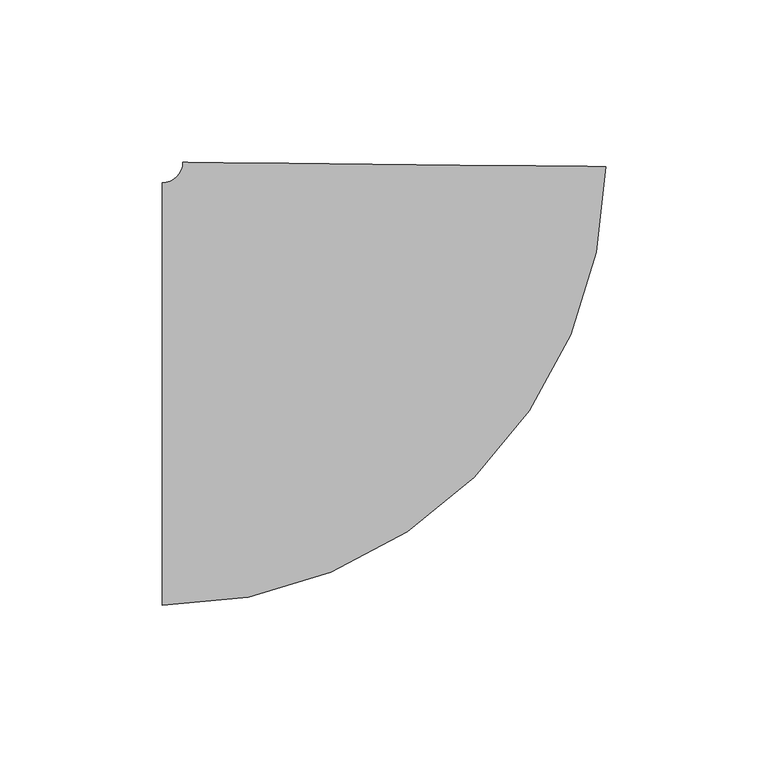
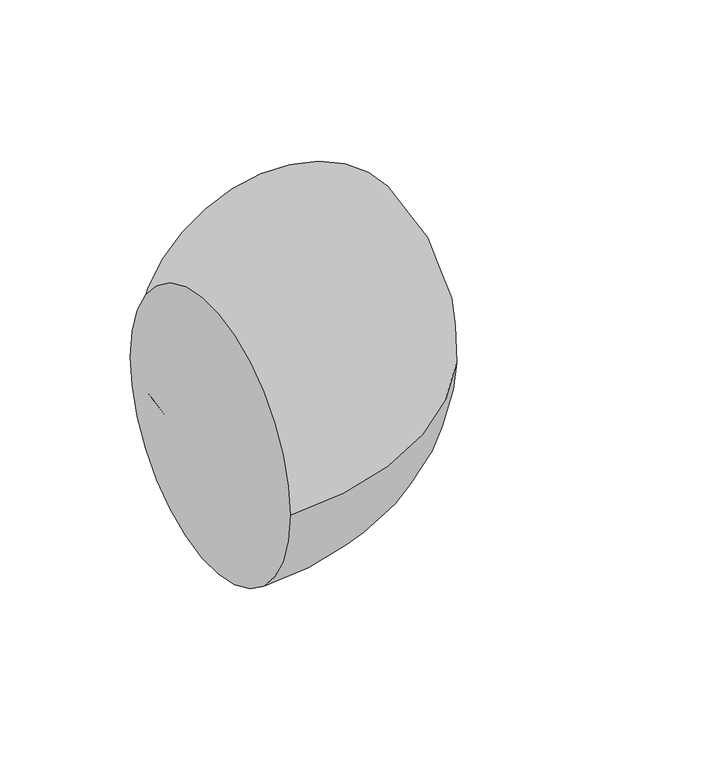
"""IFC4 building model written with IfcOpenShell, lengths in millimetres: pipe fitting geometry, M_Codo - Genérico : Estándar."""

from ifc_helpers import new_model, si_unit, point, frame, origin, place, context, project, spatial, circle_curve, ellipse_curve, trimmed, source, transform, mapped, element, save
from ifc_brep_helpers import plane_surface, revolved_surface, advanced_brep


def pipe_fitting_9ffe5904(model_context):
    return source(origin(), model_context, "Body", "AdvancedBrep", [
        advanced_brep(
        [(-70.7266056, -65.0875, 0.0), (-70.7266056, 65.0875, 0.0), (65.7915669, 70.0721423, 0.0), (-64.3769232, 71.373995, 0.0)],
        [
            (0, 1, circle_curve(frame((-70.7266056, 0.0, 0.0), z_axis=(-1.0, 0.0, 0.0), x_axis=(0.0, 1.0, 0.0)), 65.0875)),
            (1, 0, circle_curve(frame((-70.7266056, 0.0, 0.0), z_axis=(-1.0, 0.0, 0.0), x_axis=(0.0, 1.0, 0.0)), 65.0875)),
            (2, 3, circle_curve(frame((0.7073219, 70.7230686, 0.0), z_axis=(0.010000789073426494, 0.9999499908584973, 0.0), x_axis=(-0.9999499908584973, 0.010000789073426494, 0.0)), 65.0875)),
            (3, 2, circle_curve(frame((0.7073219, 70.7230686, 0.0), z_axis=(0.010000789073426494, 0.9999499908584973, 0.0), x_axis=(-0.9999499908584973, 0.010000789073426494, 0.0)), 65.0875)),
            (3, 1, circle_curve(frame((-70.7266056, 71.4375, 0.0), z_axis=(0.0, 0.0, -1.0), x_axis=(0.0, -1.0, 0.0)), 6.35)),
            (0, 2, circle_curve(frame((-70.7266056, 71.4375, 0.0), z_axis=(0.0, 0.0, 1.0), x_axis=(0.0, -1.0, 0.0)), 136.525)),
        ],
        [
            plane_surface(frame((-70.7266056, 0.0, 0.0), z_axis=(-1.0, 0.0, 0.0), x_axis=(0.0, 0.0, 1.0))),
            plane_surface(frame((0.7073219, 70.7230686, 0.0), z_axis=(0.010000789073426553, 0.9999499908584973, 0.0), x_axis=(0.0, 0.0, 1.0))),
            revolved_surface(trimmed(ellipse_curve(frame((-70.7266056, 0.0, 0.0), z_axis=(-1.0, 0.0, 0.0), x_axis=(0.0, 1.0, 0.0)), 65.0875, 65.0875), [point((-70.7266056, -65.0875, 0.0))], [point((-70.7266056, 65.0875, 0.0))], True, "CARTESIAN"), (-70.7266056, 71.4375, 0.0), (0.0, 0.0, 1.0)),
            revolved_surface(trimmed(ellipse_curve(frame((-70.7266056, 0.0, 0.0), z_axis=(-1.0, 0.0, 0.0), x_axis=(0.0, 1.0, 0.0)), 65.0875, 65.0875), [point((-70.7266056, 65.0875, 0.0))], [point((-70.7266056, -65.0875, 0.0))], True, "CARTESIAN"), (-70.7266056, 71.4375, 0.0), (0.0, 0.0, 1.0)),
        ],
        [
            (0, [[1, 2]]),
            (1, [[3, 4]]),
            (2, [[5, -1, 6, -4]]),
            (3, [[-6, -2, -5, -3]]),
        ],
    ),
    ])


if __name__ == "__main__":
    model = new_model("IFC4")
    model_context = context("Model", 3, world=origin())
    ifc_project = project(units=[si_unit("LENGTHUNIT", "METRE", prefix="MILLI")], contexts=[model_context])
    site = spatial("IfcSite", under=ifc_project)
    building = spatial("IfcBuilding", under=site)
    placement = place(None, origin())
    pipe_fitting_shape = pipe_fitting_9ffe5904(model_context)
    element("IfcPipeFitting", 1, ObjectType="M_Codo - Genérico : Estándar", at=placement, inside=building, context=model_context, shape_type="MappedRepresentation", body=[
        mapped(pipe_fitting_shape, transform((0.0, 0.0, 0.0), x_axis=(1.0, 0.0, 0.0), y_axis=(0.0, 1.0, 0.0), z_axis=(0.0, 0.0, 1.0))),
    ])
    save(model, "model.ifc")
